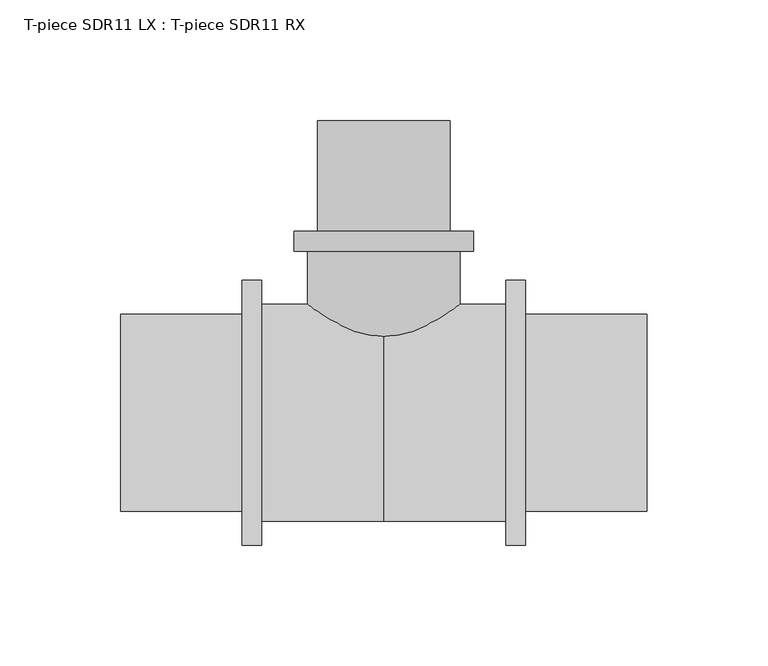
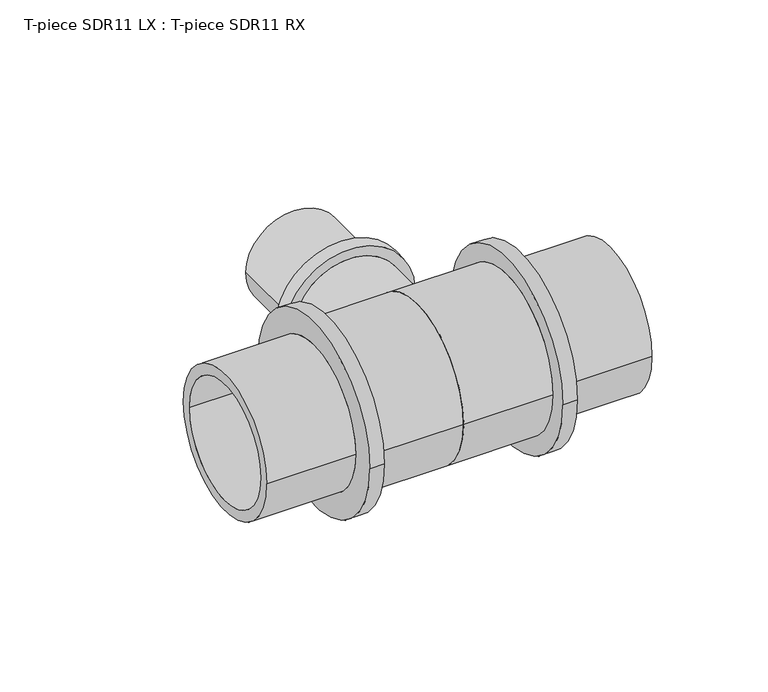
"""IFC4 building model written with IfcOpenShell, lengths in millimetres: pipe fitting geometry, T-piece SDR11 LX : T-piece SDR11 RX."""

from ifc_helpers import new_model, si_unit, point, frame, origin, place, context, project, spatial, polyline, circle_curve, ellipse_curve, trimmed, source, transform, mapped, element, save
from ifc_brep_helpers import plane_surface, cylinder_surface, revolved_surface, advanced_brep


def t_piece_sdr11_lx_t_piece_sdr11_rx_10ffb44c(model_context):
    return source(origin(), model_context, "Body", "AdvancedBrep", [
        advanced_brep(
        [(31.5, 1.8378753, 0.0), (-31.5, 1.8378753, 0.0), (-31.5, 66.9, 0.0), (31.5, 66.9, 0.0), (22.7, 121.0, 0.0), (-22.7, 121.0, 0.0), (-22.7, 0.0, 0.0), (22.7, 0.0, 0.0), (27.55, 75.1, 0.0), (-27.55, 75.1, 0.0), (-27.55, 121.0, 0.0), (27.55, 121.0, 0.0), (37.1, 66.9, 0.0), (-37.1, 66.9, 0.0), (-37.1, 75.1, 0.0), (37.1, 75.1, 0.0)],
        [
            (0, 1, circle_curve(frame((0.0, 1.8378753, 0.0), z_axis=(0.0, 1.0, 0.0), x_axis=(-1.0, 0.0, 0.0)), 31.5)),
            (1, 2),
            (2, 3, circle_curve(frame((0.0, 66.9, 0.0), z_axis=(0.0, -1.0, 0.0), x_axis=(-1.0, 0.0, 0.0)), 31.5)),
            (3, 0),
            (4, 5, circle_curve(frame((0.0, 121.0, 0.0), z_axis=(0.0, 1.0, 0.0), x_axis=(-1.0, 0.0, 0.0)), 22.7)),
            (5, 6),
            (6, 7, circle_curve(frame((0.0, 0.0, 0.0), z_axis=(0.0, -1.0, 0.0), x_axis=(-1.0, 0.0, 0.0)), 22.7)),
            (7, 4),
            (8, 9, circle_curve(frame((0.0, 75.1, 0.0), z_axis=(0.0, 1.0, 0.0), x_axis=(-1.0, 0.0, 0.0)), 27.55)),
            (9, 10),
            (10, 11, circle_curve(frame((0.0, 121.0, 0.0), z_axis=(0.0, -1.0, 0.0), x_axis=(-1.0, 0.0, 0.0)), 27.55)),
            (11, 8),
            (12, 13, circle_curve(frame((0.0, 66.9, 0.0), z_axis=(0.0, 1.0, 0.0), x_axis=(-1.0, 0.0, 0.0)), 37.1)),
            (13, 14),
            (14, 15, circle_curve(frame((0.0, 75.1, 0.0), z_axis=(0.0, -1.0, 0.0), x_axis=(-1.0, 0.0, 0.0)), 37.1)),
            (15, 12),
            (12, 13, circle_curve(frame((0.0, 66.9, 0.0), z_axis=(0.0, -1.0, 0.0), x_axis=(1.0, 0.0, 0.0)), 37.1)),
            (2, 3, circle_curve(frame((0.0, 66.9, 0.0), z_axis=(0.0, 1.0, 0.0), x_axis=(1.0, 0.0, 0.0)), 31.5)),
            (1, 0, circle_curve(frame((0.0, 1.8378753, 0.0), z_axis=(0.0, 1.0, 0.0), x_axis=(1.0, 0.0, 0.0)), 31.5)),
            (5, 4, circle_curve(frame((0.0, 121.0, 0.0), z_axis=(0.0, 1.0, 0.0), x_axis=(1.0, 0.0, 0.0)), 22.7)),
            (7, 6, circle_curve(frame((0.0, 0.0, 0.0), z_axis=(0.0, -1.0, 0.0), x_axis=(1.0, 0.0, 0.0)), 22.7)),
            (10, 11, circle_curve(frame((0.0, 121.0, 0.0), z_axis=(0.0, 1.0, 0.0), x_axis=(1.0, 0.0, 0.0)), 27.55)),
            (9, 8, circle_curve(frame((0.0, 75.1, 0.0), z_axis=(0.0, 1.0, 0.0), x_axis=(1.0, 0.0, 0.0)), 27.55)),
            (14, 15, circle_curve(frame((0.0, 75.1, 0.0), z_axis=(0.0, 1.0, 0.0), x_axis=(1.0, 0.0, 0.0)), 37.1)),
            (6, 1, circle_curve(frame((-17.9462802, 44.7482083, 0.0), z_axis=(0.0, 0.0, -1.0), x_axis=(0.0, -1.0, 0.0)), 45.0)),
            (0, 7, circle_curve(frame((17.9462802, 44.7482083, 0.0), z_axis=(0.0, 0.0, -1.0), x_axis=(0.0, -1.0, 0.0)), 45.0)),
        ],
        [
            cylinder_surface(frame((0.0, 0.0, 0.0), z_axis=(0.0, -1.0, 0.0), x_axis=(-1.0, 0.0, 0.0)), 31.5),
            revolved_surface(polyline([(-22.7, 0.0, 0.0), (-22.7, 121.0, 0.0)]), (0.0, 0.0, 0.0), (0.0, -1.0, 0.0)),
            cylinder_surface(frame((0.0, 0.0, 0.0), z_axis=(0.0, -1.0, 0.0), x_axis=(-1.0, 0.0, 0.0)), 27.55),
            cylinder_surface(frame((0.0, 0.0, 0.0), z_axis=(0.0, -1.0, 0.0), x_axis=(-1.0, 0.0, 0.0)), 37.1),
            plane_surface(frame((0.0, 66.9, 0.0), z_axis=(0.0, -1.0, 0.0), x_axis=(1.0, 0.0, 0.0))),
            cylinder_surface(frame((0.0, 0.0, 0.0), z_axis=(0.0, -1.0, 0.0), x_axis=(1.0, 0.0, 0.0)), 31.5),
            revolved_surface(polyline([(22.7, 0.0, 0.0), (22.7, 121.0, 0.0)]), (0.0, 0.0, 0.0), (0.0, -1.0, 0.0)),
            plane_surface(frame((0.0, 121.0, 0.0), z_axis=(0.0, 1.0, 0.0), x_axis=(1.0, 0.0, 0.0))),
            cylinder_surface(frame((0.0, 0.0, 0.0), z_axis=(0.0, -1.0, 0.0), x_axis=(1.0, 0.0, 0.0)), 27.55),
            plane_surface(frame((0.0, 75.1, 0.0), z_axis=(0.0, 1.0, 0.0), x_axis=(1.0, 0.0, 0.0))),
            cylinder_surface(frame((0.0, 0.0, 0.0), z_axis=(0.0, -1.0, 0.0), x_axis=(1.0, 0.0, 0.0)), 37.1),
            revolved_surface(trimmed(ellipse_curve(frame((-17.9462802, 44.7482083, 0.0), z_axis=(0.0, 0.0, 1.0), x_axis=(0.0, -1.0, 0.0)), 45.0, 45.0), [point((-31.5, 1.8378753, 0.0))], [point((-22.7, 0.0, 0.0))], True, "CARTESIAN"), (0.0, 0.0, 0.0), (0.0, -1.0, 0.0)),
            revolved_surface(trimmed(ellipse_curve(frame((17.9462802, 44.7482083, 0.0), z_axis=(0.0, 0.0, -1.0), x_axis=(0.0, -1.0, 0.0)), 45.0, 45.0), [point((31.5, 1.8378753, 0.0))], [point((22.7, 0.0, 0.0))], True, "CARTESIAN"), (0.0, 0.0, 0.0), (0.0, -1.0, 0.0)),
        ],
        [
            (0, [[1, 2, 3, 4]]),
            (1, [[5, 6, 7, 8]]),
            (2, [[9, 10, 11, 12]]),
            (3, [[13, 14, 15, 16]]),
            (4, [[17, -13], [18, -3]]),
            (5, [[19, -4, -18, -2]]),
            (6, [[20, -8, 21, -6]]),
            (7, [[22, -11], [-20, -5]]),
            (8, [[23, -12, -22, -10]]),
            (9, [[24, -15], [-23, -9]]),
            (10, [[-17, -16, -24, -14]]),
            (11, [[-7, 25, -1, 26]]),
            (12, [[-21, -26, -19, -25]]),
        ],
    ),
        advanced_brep(
        [(50.6, 45.0, 0.0), (50.6, -45.0, 0.0), (0.0, -45.0, 0.0), (0.0, 45.0, 0.0), (0.0, 34.8, 0.0), (0.0, -34.8, 0.0), (109.1, -34.8, 0.0), (109.1, 34.8, 0.0), (109.1, 40.9, 0.0), (109.1, -40.9, 0.0), (58.8, -40.9, 0.0), (58.8, 40.9, 0.0), (58.8, 54.9, 0.0), (58.8, -54.9, 0.0), (50.6, -54.9, 0.0), (50.6, 54.9, 0.0)],
        [
            (0, 1, circle_curve(frame((50.6, 0.0, 0.0), z_axis=(-1.0, 0.0, 0.0), x_axis=(0.0, -1.0, 0.0)), 45.0)),
            (1, 2),
            (2, 3, circle_curve(frame((0.0, 0.0, 0.0), z_axis=(1.0, 0.0, 0.0), x_axis=(0.0, -1.0, 0.0)), 45.0)),
            (3, 0),
            (4, 5, circle_curve(frame((0.0, 0.0, 0.0), z_axis=(-1.0, 0.0, 0.0), x_axis=(0.0, -1.0, 0.0)), 34.8)),
            (5, 6),
            (6, 7, circle_curve(frame((109.1, 0.0, 0.0), z_axis=(1.0, 0.0, 0.0), x_axis=(0.0, -1.0, 0.0)), 34.8)),
            (7, 4),
            (8, 9, circle_curve(frame((109.1, 0.0, 0.0), z_axis=(-1.0, 0.0, 0.0), x_axis=(0.0, -1.0, 0.0)), 40.9)),
            (9, 10),
            (10, 11, circle_curve(frame((58.8, 0.0, 0.0), z_axis=(1.0, 0.0, 0.0), x_axis=(0.0, -1.0, 0.0)), 40.9)),
            (11, 8),
            (12, 13, circle_curve(frame((58.8, 0.0, 0.0), z_axis=(-1.0, 0.0, 0.0), x_axis=(0.0, -1.0, 0.0)), 54.9)),
            (13, 14),
            (14, 15, circle_curve(frame((50.6, 0.0, 0.0), z_axis=(1.0, 0.0, 0.0), x_axis=(0.0, -1.0, 0.0)), 54.9)),
            (15, 12),
            (14, 15, circle_curve(frame((50.6, 0.0, 0.0), z_axis=(-1.0, 0.0, 0.0), x_axis=(0.0, 1.0, 0.0)), 54.9)),
            (0, 1, circle_curve(frame((50.6, 0.0, 0.0), z_axis=(1.0, 0.0, 0.0), x_axis=(0.0, 1.0, 0.0)), 45.0)),
            (3, 2, circle_curve(frame((0.0, 0.0, 0.0), z_axis=(1.0, 0.0, 0.0), x_axis=(0.0, 1.0, 0.0)), 45.0)),
            (4, 5, circle_curve(frame((0.0, 0.0, 0.0), z_axis=(1.0, 0.0, 0.0), x_axis=(0.0, 1.0, 0.0)), 34.8)),
            (7, 6, circle_curve(frame((109.1, 0.0, 0.0), z_axis=(1.0, 0.0, 0.0), x_axis=(0.0, 1.0, 0.0)), 34.8)),
            (8, 9, circle_curve(frame((109.1, 0.0, 0.0), z_axis=(1.0, 0.0, 0.0), x_axis=(0.0, 1.0, 0.0)), 40.9)),
            (11, 10, circle_curve(frame((58.8, 0.0, 0.0), z_axis=(1.0, 0.0, 0.0), x_axis=(0.0, 1.0, 0.0)), 40.9)),
            (12, 13, circle_curve(frame((58.8, 0.0, 0.0), z_axis=(1.0, 0.0, 0.0), x_axis=(0.0, 1.0, 0.0)), 54.9)),
        ],
        [
            cylinder_surface(frame((0.0, 0.0, 0.0), z_axis=(1.0, 0.0, 0.0), x_axis=(0.0, -1.0, 0.0)), 45.0),
            revolved_surface(polyline([(109.1, -34.8, 0.0), (0.0, -34.8, 0.0)]), (0.0, 0.0, 0.0), (1.0, 0.0, 0.0)),
            cylinder_surface(frame((0.0, 0.0, 0.0), z_axis=(1.0, 0.0, 0.0), x_axis=(0.0, -1.0, 0.0)), 40.9),
            cylinder_surface(frame((0.0, 0.0, 0.0), z_axis=(1.0, 0.0, 0.0), x_axis=(0.0, -1.0, 0.0)), 54.9),
            plane_surface(frame((50.6, 0.0, 0.0), z_axis=(-1.0, 0.0, 0.0), x_axis=(0.0, 1.0, 0.0))),
            cylinder_surface(frame((0.0, 0.0, 0.0), z_axis=(1.0, 0.0, 0.0), x_axis=(0.0, 1.0, 0.0)), 45.0),
            plane_surface(frame((0.0, 0.0, 0.0), z_axis=(-1.0, 0.0, 0.0), x_axis=(0.0, 1.0, 0.0))),
            revolved_surface(polyline([(109.1, 34.8, 0.0), (0.0, 34.8, 0.0)]), (0.0, 0.0, 0.0), (1.0, 0.0, 0.0)),
            plane_surface(frame((109.1, 0.0, 0.0), z_axis=(1.0, 0.0, 0.0), x_axis=(0.0, 1.0, 0.0))),
            cylinder_surface(frame((0.0, 0.0, 0.0), z_axis=(1.0, 0.0, 0.0), x_axis=(0.0, 1.0, 0.0)), 40.9),
            plane_surface(frame((58.8, 0.0, 0.0), z_axis=(1.0, 0.0, 0.0), x_axis=(0.0, 1.0, 0.0))),
            cylinder_surface(frame((0.0, 0.0, 0.0), z_axis=(1.0, 0.0, 0.0), x_axis=(0.0, 1.0, 0.0)), 54.9),
        ],
        [
            (0, [[1, 2, 3, 4]]),
            (1, [[5, 6, 7, 8]]),
            (2, [[9, 10, 11, 12]]),
            (3, [[13, 14, 15, 16]]),
            (4, [[17, -15], [18, -1]]),
            (5, [[-18, -4, 19, -2]]),
            (6, [[-19, -3], [20, -5]]),
            (7, [[-20, -8, 21, -6]]),
            (8, [[22, -9], [-21, -7]]),
            (9, [[-22, -12, 23, -10]]),
            (10, [[24, -13], [-23, -11]]),
            (11, [[-24, -16, -17, -14]]),
        ],
    ),
        advanced_brep(
        [(0.0, 45.0, 0.0), (0.0, -45.0, 0.0), (-50.6, -45.0, 0.0), (-50.6, 45.0, 0.0), (-109.1, 34.8, 0.0), (-109.1, -34.8, 0.0), (0.0, -34.8, 0.0), (0.0, 34.8, 0.0), (-58.8, 40.9, 0.0), (-58.8, -40.9, 0.0), (-109.1, -40.9, 0.0), (-109.1, 40.9, 0.0), (-50.6, 54.9, 0.0), (-50.6, -54.9, 0.0), (-58.8, -54.9, 0.0), (-58.8, 54.9, 0.0)],
        [
            (0, 1, circle_curve(frame((0.0, 0.0, 0.0), z_axis=(-1.0, 0.0, 0.0), x_axis=(0.0, -1.0, 0.0)), 45.0)),
            (1, 2),
            (2, 3, circle_curve(frame((-50.6, 0.0, 0.0), z_axis=(1.0, 0.0, 0.0), x_axis=(0.0, -1.0, 0.0)), 45.0)),
            (3, 0),
            (4, 5, circle_curve(frame((-109.1, 0.0, 0.0), z_axis=(-1.0, 0.0, 0.0), x_axis=(0.0, -1.0, 0.0)), 34.8)),
            (5, 6),
            (6, 7, circle_curve(frame((0.0, 0.0, 0.0), z_axis=(1.0, 0.0, 0.0), x_axis=(0.0, -1.0, 0.0)), 34.8)),
            (7, 4),
            (8, 9, circle_curve(frame((-58.8, 0.0, 0.0), z_axis=(-1.0, 0.0, 0.0), x_axis=(0.0, -1.0, 0.0)), 40.9)),
            (9, 10),
            (10, 11, circle_curve(frame((-109.1, 0.0, 0.0), z_axis=(1.0, 0.0, 0.0), x_axis=(0.0, -1.0, 0.0)), 40.9)),
            (11, 8),
            (12, 13, circle_curve(frame((-50.6, 0.0, 0.0), z_axis=(-1.0, 0.0, 0.0), x_axis=(0.0, -1.0, 0.0)), 54.9)),
            (13, 14),
            (14, 15, circle_curve(frame((-58.8, 0.0, 0.0), z_axis=(1.0, 0.0, 0.0), x_axis=(0.0, -1.0, 0.0)), 54.9)),
            (15, 12),
            (12, 13, circle_curve(frame((-50.6, 0.0, 0.0), z_axis=(1.0, 0.0, 0.0), x_axis=(0.0, 1.0, 0.0)), 54.9)),
            (2, 3, circle_curve(frame((-50.6, 0.0, 0.0), z_axis=(-1.0, 0.0, 0.0), x_axis=(0.0, 1.0, 0.0)), 45.0)),
            (1, 0, circle_curve(frame((0.0, 0.0, 0.0), z_axis=(-1.0, 0.0, 0.0), x_axis=(0.0, 1.0, 0.0)), 45.0)),
            (6, 7, circle_curve(frame((0.0, 0.0, 0.0), z_axis=(-1.0, 0.0, 0.0), x_axis=(0.0, 1.0, 0.0)), 34.8)),
            (5, 4, circle_curve(frame((-109.1, 0.0, 0.0), z_axis=(-1.0, 0.0, 0.0), x_axis=(0.0, 1.0, 0.0)), 34.8)),
            (10, 11, circle_curve(frame((-109.1, 0.0, 0.0), z_axis=(-1.0, 0.0, 0.0), x_axis=(0.0, 1.0, 0.0)), 40.9)),
            (9, 8, circle_curve(frame((-58.8, 0.0, 0.0), z_axis=(-1.0, 0.0, 0.0), x_axis=(0.0, 1.0, 0.0)), 40.9)),
            (14, 15, circle_curve(frame((-58.8, 0.0, 0.0), z_axis=(-1.0, 0.0, 0.0), x_axis=(0.0, 1.0, 0.0)), 54.9)),
        ],
        [
            cylinder_surface(frame((0.0, 0.0, 0.0), z_axis=(1.0, 0.0, 0.0), x_axis=(0.0, -1.0, 0.0)), 45.0),
            revolved_surface(polyline([(0.0, -34.8, 0.0), (-109.1, -34.8, 0.0)]), (0.0, 0.0, 0.0), (1.0, 0.0, 0.0)),
            cylinder_surface(frame((0.0, 0.0, 0.0), z_axis=(1.0, 0.0, 0.0), x_axis=(0.0, -1.0, 0.0)), 40.9),
            cylinder_surface(frame((0.0, 0.0, 0.0), z_axis=(1.0, 0.0, 0.0), x_axis=(0.0, -1.0, 0.0)), 54.9),
            plane_surface(frame((-50.6, 0.0, 0.0), z_axis=(1.0, 0.0, 0.0), x_axis=(0.0, 1.0, 0.0))),
            cylinder_surface(frame((0.0, 0.0, 0.0), z_axis=(1.0, 0.0, 0.0), x_axis=(0.0, 1.0, 0.0)), 45.0),
            plane_surface(frame((0.0, 0.0, 0.0), z_axis=(1.0, 0.0, 0.0), x_axis=(0.0, 1.0, 0.0))),
            revolved_surface(polyline([(0.0, 34.8, 0.0), (-109.1, 34.8, 0.0)]), (0.0, 0.0, 0.0), (1.0, 0.0, 0.0)),
            plane_surface(frame((-109.1, 0.0, 0.0), z_axis=(-1.0, 0.0, 0.0), x_axis=(0.0, 1.0, 0.0))),
            cylinder_surface(frame((0.0, 0.0, 0.0), z_axis=(1.0, 0.0, 0.0), x_axis=(0.0, 1.0, 0.0)), 40.9),
            plane_surface(frame((-58.8, 0.0, 0.0), z_axis=(-1.0, 0.0, 0.0), x_axis=(0.0, 1.0, 0.0))),
            cylinder_surface(frame((0.0, 0.0, 0.0), z_axis=(1.0, 0.0, 0.0), x_axis=(0.0, 1.0, 0.0)), 54.9),
        ],
        [
            (0, [[1, 2, 3, 4]]),
            (1, [[5, 6, 7, 8]]),
            (2, [[9, 10, 11, 12]]),
            (3, [[13, 14, 15, 16]]),
            (4, [[17, -13], [18, -3]]),
            (5, [[19, -4, -18, -2]]),
            (6, [[-19, -1], [20, -7]]),
            (7, [[21, -8, -20, -6]]),
            (8, [[22, -11], [-21, -5]]),
            (9, [[23, -12, -22, -10]]),
            (10, [[24, -15], [-23, -9]]),
            (11, [[-17, -16, -24, -14]]),
        ],
    ),
    ])


if __name__ == "__main__":
    model = new_model("IFC4")
    model_context = context("Model", 3, world=origin())
    ifc_project = project(units=[si_unit("LENGTHUNIT", "METRE", prefix="MILLI")], contexts=[model_context])
    site = spatial("IfcSite", under=ifc_project)
    building = spatial("IfcBuilding", under=site)
    placement = place(None, origin())
    t_piece_sdr11_lx_t_piece_sdr11_rx_shape = t_piece_sdr11_lx_t_piece_sdr11_rx_10ffb44c(model_context)
    element("IfcPipeFitting", 1, ObjectType="T-piece SDR11 LX : T-piece SDR11 RX", at=placement, inside=building, context=model_context, shape_type="MappedRepresentation", body=[
        mapped(t_piece_sdr11_lx_t_piece_sdr11_rx_shape, transform((0.0, 0.0, 0.0), x_axis=(1.0, 0.0, 0.0), y_axis=(0.0, 1.0, 0.0), z_axis=(0.0, 0.0, 1.0))),
    ])
    save(model, "model.ifc")
